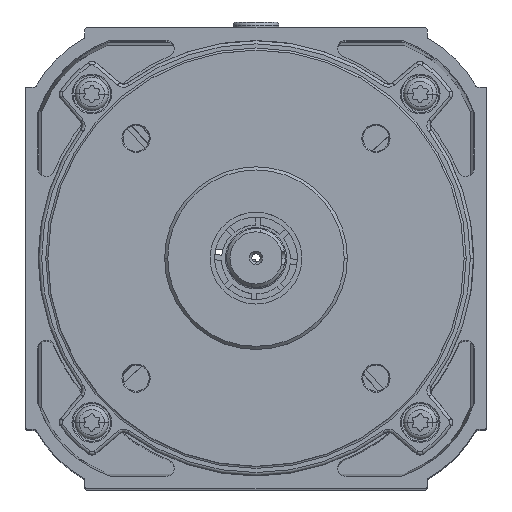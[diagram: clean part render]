
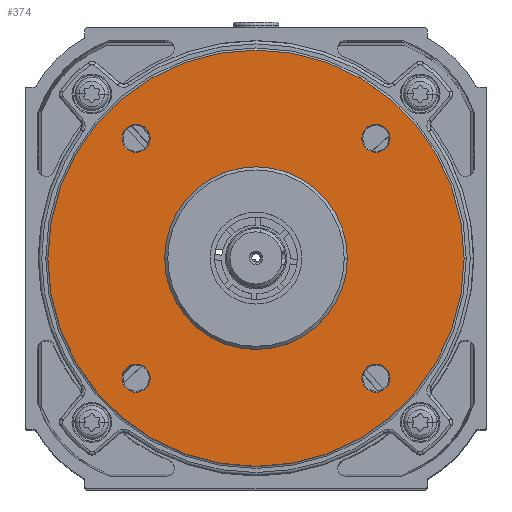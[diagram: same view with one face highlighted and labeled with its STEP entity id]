
A CAD part, top view. The second image highlights one B-rep face of the part: STEP entity #374.
In plain terms, the highlighted planar face has unit normal (0, 0, 1).
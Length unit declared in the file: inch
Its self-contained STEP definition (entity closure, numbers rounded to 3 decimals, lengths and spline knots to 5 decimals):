
#334 = EDGE_CURVE ( 'NONE', #8521, #8516, #1777, .T. ) ;
#336 = EDGE_LOOP ( 'NONE', ( #368, #337 ) ) ;
#337 = ORIENTED_EDGE ( 'NONE', *, *, #334, .F. ) ;
#343 = EDGE_LOOP ( 'NONE', ( #345, #346 ) ) ;
#345 = ORIENTED_EDGE ( 'NONE', *, *, #411, .F. ) ;
#346 = ORIENTED_EDGE ( 'NONE', *, *, #8492, .F. ) ;
#347 = EDGE_LOOP ( 'NONE', ( #349, #353 ) ) ;
#349 = ORIENTED_EDGE ( 'NONE', *, *, #373, .F. ) ;
#353 = ORIENTED_EDGE ( 'NONE', *, *, #17074, .F. ) ;
#355 = EDGE_LOOP ( 'NONE', ( #356, #358 ) ) ;
#356 = ORIENTED_EDGE ( 'NONE', *, *, #394, .F. ) ;
#358 = ORIENTED_EDGE ( 'NONE', *, *, #17135, .F. ) ;
#359 = EDGE_LOOP ( 'NONE', ( #360, #364 ) ) ;
#360 = ORIENTED_EDGE ( 'NONE', *, *, #398, .F. ) ;
#361 = EDGE_LOOP ( 'NONE', ( #365, #366 ) ) ;
#363 = EDGE_CURVE ( 'NONE', #16867, #16864, #1833, .T. ) ;
#364 = ORIENTED_EDGE ( 'NONE', *, *, #17117, .F. ) ;
#365 = ORIENTED_EDGE ( 'NONE', *, *, #363, .T. ) ;
#366 = ORIENTED_EDGE ( 'NONE', *, *, #17070, .T. ) ;
#368 = ORIENTED_EDGE ( 'NONE', *, *, #8515, .F. ) ;
#373 = EDGE_CURVE ( 'NONE', #17085, #17090, #1822, .T. ) ;
#374 = ADVANCED_FACE ( 'NONE', ( #1817, #1816, #1815, #1814, #1813, #1812 ), #1810, .F. ) ;
#394 = EDGE_CURVE ( 'NONE', #17128, #17132, #1896, .T. ) ;
#398 = EDGE_CURVE ( 'NONE', #17118, #17112, #1884, .T. ) ;
#411 = EDGE_CURVE ( 'NONE', #8494, #8488, #1918, .T. ) ;
#1773 = DIRECTION ( 'NONE',  ( -1., 0., 0. ) ) ;
#1774 = DIRECTION ( 'NONE',  ( 0., 0., 1. ) ) ;
#1775 = CARTESIAN_POINT ( 'NONE',  ( 0., 0., 0.335 ) ) ;
#1776 = AXIS2_PLACEMENT_3D ( 'NONE', #1775, #1774, #1773 ) ;
#1777 = CIRCLE ( 'NONE', #1776, 0.875 ) ;
#1805 = DIRECTION ( 'NONE',  ( -1., 0., 0. ) ) ;
#1806 = DIRECTION ( 'NONE',  ( 0., 0., -1. ) ) ;
#1807 = AXIS2_PLACEMENT_3D ( 'NONE', #1809, #1806, #1805 ) ;
#1809 = CARTESIAN_POINT ( 'NONE',  ( 0., 0., 0.335 ) ) ;
#1810 = PLANE ( 'NONE',  #1807 ) ;
#1812 = FACE_BOUND ( 'NONE', #336, .T. ) ;
#1813 = FACE_OUTER_BOUND ( 'NONE', #361, .T. ) ;
#1814 = FACE_BOUND ( 'NONE', #343, .T. ) ;
#1815 = FACE_BOUND ( 'NONE', #359, .T. ) ;
#1816 = FACE_BOUND ( 'NONE', #355, .T. ) ;
#1817 = FACE_BOUND ( 'NONE', #347, .T. ) ;
#1818 = DIRECTION ( 'NONE',  ( 1., 0., 0. ) ) ;
#1819 = DIRECTION ( 'NONE',  ( 0., 0., 1. ) ) ;
#1820 = CARTESIAN_POINT ( 'NONE',  ( -1.14905, -1.14905, 0.335 ) ) ;
#1821 = AXIS2_PLACEMENT_3D ( 'NONE', #1820, #1819, #1818 ) ;
#1822 = CIRCLE ( 'NONE', #1821, 0.135 ) ;
#1829 = DIRECTION ( 'NONE',  ( -1., 0., 0. ) ) ;
#1830 = DIRECTION ( 'NONE',  ( 0., 0., 1. ) ) ;
#1831 = CARTESIAN_POINT ( 'NONE',  ( 0., 0., 0.335 ) ) ;
#1832 = AXIS2_PLACEMENT_3D ( 'NONE', #1831, #1830, #1829 ) ;
#1833 = CIRCLE ( 'NONE', #1832, 1.99391 ) ;
#1876 = DIRECTION ( 'NONE',  ( 1., 0., 0. ) ) ;
#1877 = DIRECTION ( 'NONE',  ( 0., 0., 1. ) ) ;
#1878 = CARTESIAN_POINT ( 'NONE',  ( 1.14905, 1.14905, 0.335 ) ) ;
#1879 = AXIS2_PLACEMENT_3D ( 'NONE', #1878, #1877, #1876 ) ;
#1884 = CIRCLE ( 'NONE', #1879, 0.135 ) ;
#1892 = DIRECTION ( 'NONE',  ( 1., 0., 0. ) ) ;
#1893 = DIRECTION ( 'NONE',  ( 0., 0., 1. ) ) ;
#1894 = CARTESIAN_POINT ( 'NONE',  ( 1.14905, -1.14905, 0.335 ) ) ;
#1895 = AXIS2_PLACEMENT_3D ( 'NONE', #1894, #1893, #1892 ) ;
#1896 = CIRCLE ( 'NONE', #1895, 0.135 ) ;
#1914 = DIRECTION ( 'NONE',  ( 1., 0., 0. ) ) ;
#1915 = DIRECTION ( 'NONE',  ( 0., 0., 1. ) ) ;
#1916 = CARTESIAN_POINT ( 'NONE',  ( -1.14905, 1.14905, 0.335 ) ) ;
#1917 = AXIS2_PLACEMENT_3D ( 'NONE', #1916, #1915, #1914 ) ;
#1918 = CIRCLE ( 'NONE', #1917, 0.135 ) ;
#4028 = CARTESIAN_POINT ( 'NONE',  ( -1.01405, 1.14905, 0.335 ) ) ;
#4033 = DIRECTION ( 'NONE',  ( 1., 0., 0. ) ) ;
#4034 = DIRECTION ( 'NONE',  ( 0., 0., 1. ) ) ;
#4035 = CARTESIAN_POINT ( 'NONE',  ( -1.14905, 1.14905, 0.335 ) ) ;
#4036 = AXIS2_PLACEMENT_3D ( 'NONE', #4035, #4034, #4033 ) ;
#4037 = CIRCLE ( 'NONE', #4036, 0.135 ) ;
#4046 = CARTESIAN_POINT ( 'NONE',  ( -1.28405, 1.14905, 0.335 ) ) ;
#4084 = CARTESIAN_POINT ( 'NONE',  ( -0.875, 0., 0.335 ) ) ;
#4095 = CARTESIAN_POINT ( 'NONE',  ( 0.875, 0., 0.335 ) ) ;
#4096 = DIRECTION ( 'NONE',  ( -1., 0., 0. ) ) ;
#4097 = DIRECTION ( 'NONE',  ( 0., 0., 1. ) ) ;
#4098 = CARTESIAN_POINT ( 'NONE',  ( 0., 0., 0.335 ) ) ;
#4099 = AXIS2_PLACEMENT_3D ( 'NONE', #4098, #4097, #4096 ) ;
#4100 = CIRCLE ( 'NONE', #4099, 0.875 ) ;
#8488 = VERTEX_POINT ( 'NONE', #4046 ) ;
#8492 = EDGE_CURVE ( 'NONE', #8488, #8494, #4037, .T. ) ;
#8494 = VERTEX_POINT ( 'NONE', #4028 ) ;
#8515 = EDGE_CURVE ( 'NONE', #8516, #8521, #4100, .T. ) ;
#8516 = VERTEX_POINT ( 'NONE', #4095 ) ;
#8521 = VERTEX_POINT ( 'NONE', #4084 ) ;
#16864 = VERTEX_POINT ( 'NONE', #29779 ) ;
#16867 = VERTEX_POINT ( 'NONE', #29772 ) ;
#17070 = EDGE_CURVE ( 'NONE', #16864, #16867, #30005, .T. ) ;
#17074 = EDGE_CURVE ( 'NONE', #17090, #17085, #30050, .T. ) ;
#17085 = VERTEX_POINT ( 'NONE', #30081 ) ;
#17090 = VERTEX_POINT ( 'NONE', #30076 ) ;
#17112 = VERTEX_POINT ( 'NONE', #30111 ) ;
#17117 = EDGE_CURVE ( 'NONE', #17112, #17118, #30110, .T. ) ;
#17118 = VERTEX_POINT ( 'NONE', #30105 ) ;
#17128 = VERTEX_POINT ( 'NONE', #30154 ) ;
#17132 = VERTEX_POINT ( 'NONE', #30147 ) ;
#17135 = EDGE_CURVE ( 'NONE', #17132, #17128, #30138, .T. ) ;
#29772 = CARTESIAN_POINT ( 'NONE',  ( 1.99391, 0., 0.335 ) ) ;
#29779 = CARTESIAN_POINT ( 'NONE',  ( -1.99391, 0., 0.335 ) ) ;
#30004 = CARTESIAN_POINT ( 'NONE',  ( 0., 0., 0.335 ) ) ;
#30005 = CIRCLE ( 'NONE', #30062, 1.99391 ) ;
#30046 = DIRECTION ( 'NONE',  ( 1., 0., 0. ) ) ;
#30047 = DIRECTION ( 'NONE',  ( 0., 0., 1. ) ) ;
#30048 = CARTESIAN_POINT ( 'NONE',  ( -1.14905, -1.14905, 0.335 ) ) ;
#30049 = AXIS2_PLACEMENT_3D ( 'NONE', #30048, #30047, #30046 ) ;
#30050 = CIRCLE ( 'NONE', #30049, 0.135 ) ;
#30060 = DIRECTION ( 'NONE',  ( -1., 0., 0. ) ) ;
#30061 = DIRECTION ( 'NONE',  ( 0., 0., 1. ) ) ;
#30062 = AXIS2_PLACEMENT_3D ( 'NONE', #30004, #30061, #30060 ) ;
#30076 = CARTESIAN_POINT ( 'NONE',  ( -1.28405, -1.14905, 0.335 ) ) ;
#30081 = CARTESIAN_POINT ( 'NONE',  ( -1.01405, -1.14905, 0.335 ) ) ;
#30105 = CARTESIAN_POINT ( 'NONE',  ( 1.28405, 1.14905, 0.335 ) ) ;
#30106 = DIRECTION ( 'NONE',  ( 1., 0., 0. ) ) ;
#30107 = DIRECTION ( 'NONE',  ( 0., 0., 1. ) ) ;
#30108 = CARTESIAN_POINT ( 'NONE',  ( 1.14905, 1.14905, 0.335 ) ) ;
#30109 = AXIS2_PLACEMENT_3D ( 'NONE', #30108, #30107, #30106 ) ;
#30110 = CIRCLE ( 'NONE', #30109, 0.135 ) ;
#30111 = CARTESIAN_POINT ( 'NONE',  ( 1.01405, 1.14905, 0.335 ) ) ;
#30134 = DIRECTION ( 'NONE',  ( 1., 0., 0. ) ) ;
#30135 = DIRECTION ( 'NONE',  ( 0., 0., 1. ) ) ;
#30136 = CARTESIAN_POINT ( 'NONE',  ( 1.14905, -1.14905, 0.335 ) ) ;
#30137 = AXIS2_PLACEMENT_3D ( 'NONE', #30136, #30135, #30134 ) ;
#30138 = CIRCLE ( 'NONE', #30137, 0.135 ) ;
#30147 = CARTESIAN_POINT ( 'NONE',  ( 1.01405, -1.14905, 0.335 ) ) ;
#30154 = CARTESIAN_POINT ( 'NONE',  ( 1.28405, -1.14905, 0.335 ) ) ;
